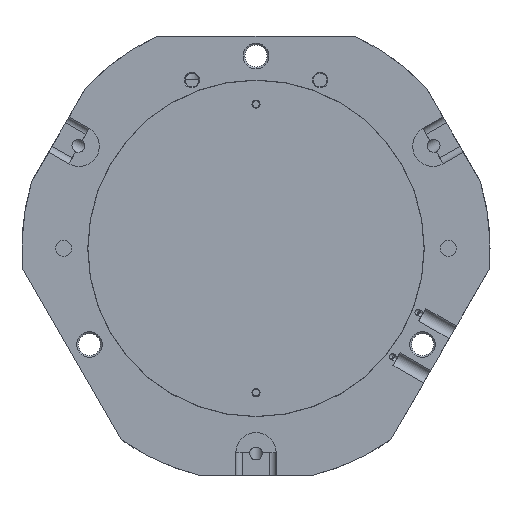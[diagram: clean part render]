
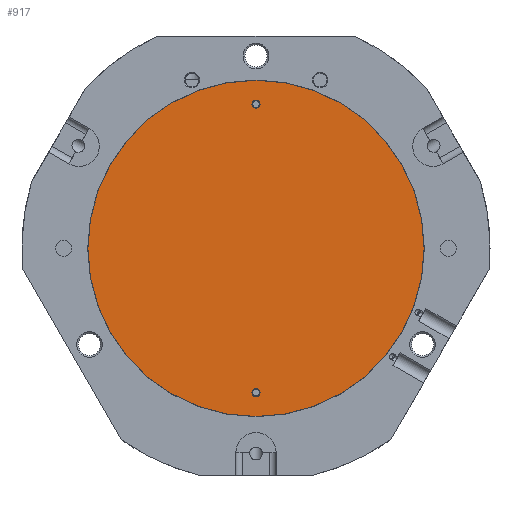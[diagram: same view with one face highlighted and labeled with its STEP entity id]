
A CAD part, front view. The second image highlights one B-rep face of the part: STEP entity #917.
In plain terms, the highlighted planar face has unit normal (0, -1, 0).
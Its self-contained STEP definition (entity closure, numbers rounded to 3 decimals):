
#917 = ADVANCED_FACE( '', ( #1937, #1938, #1939 ), #1940, .F. );
#1937 = FACE_BOUND( '', #3016, .T. );
#1938 = FACE_OUTER_BOUND( '', #3017, .T. );
#1939 = FACE_BOUND( '', #3018, .T. );
#1940 = PLANE( '', #3019 );
#3016 = EDGE_LOOP( '', ( #5392 ) );
#3017 = EDGE_LOOP( '', ( #5393 ) );
#3018 = EDGE_LOOP( '', ( #5394 ) );
#3019 = AXIS2_PLACEMENT_3D( '', #5395, #5396, #5397 );
#5392 = ORIENTED_EDGE( '', *, *, #6170, .F. );
#5393 = ORIENTED_EDGE( '', *, *, #6780, .F. );
#5394 = ORIENTED_EDGE( '', *, *, #6784, .F. );
#5395 = CARTESIAN_POINT( '', ( 0., 0., 0. ) );
#5396 = DIRECTION( '', ( 0., 1., 0. ) );
#5397 = DIRECTION( '', ( 0., 0., 1. ) );
#6170 = EDGE_CURVE( '', #7385, #7385, #7386, .T. );
#6780 = EDGE_CURVE( '', #8293, #8293, #8294, .T. );
#6784 = EDGE_CURVE( '', #8299, #8299, #8300, .T. );
#7385 = VERTEX_POINT( '', #9071 );
#7386 = CIRCLE( '', #9072, 2.5 );
#8293 = VERTEX_POINT( '', #10336 );
#8294 = CIRCLE( '', #10337, 104.9 );
#8299 = VERTEX_POINT( '', #10342 );
#8300 = CIRCLE( '', #10343, 2.5 );
#9071 = CARTESIAN_POINT( '', ( 0., 0., -92.5 ) );
#9072 = AXIS2_PLACEMENT_3D( '', #10892, #10893, #10894 );
#10336 = CARTESIAN_POINT( '', ( 104.9, 0., 0. ) );
#10337 = AXIS2_PLACEMENT_3D( '', #11610, #11611, #11612 );
#10342 = CARTESIAN_POINT( '', ( 0., 0., 87.5 ) );
#10343 = AXIS2_PLACEMENT_3D( '', #11616, #11617, #11618 );
#10892 = CARTESIAN_POINT( '', ( 0., 0., -90. ) );
#10893 = DIRECTION( '', ( 0., -1., 0. ) );
#10894 = DIRECTION( '', ( 0., 0., -1. ) );
#11610 = CARTESIAN_POINT( '', ( 0., 0., 0. ) );
#11611 = DIRECTION( '', ( 0., 1., 0. ) );
#11612 = DIRECTION( '', ( 1., 0., 0. ) );
#11616 = CARTESIAN_POINT( '', ( 0., 0., 90. ) );
#11617 = DIRECTION( '', ( 0., -1., 0. ) );
#11618 = DIRECTION( '', ( 0., 0., -1. ) );
